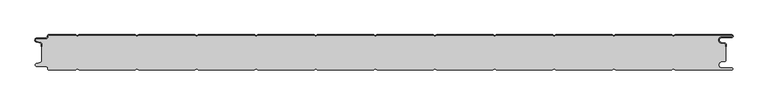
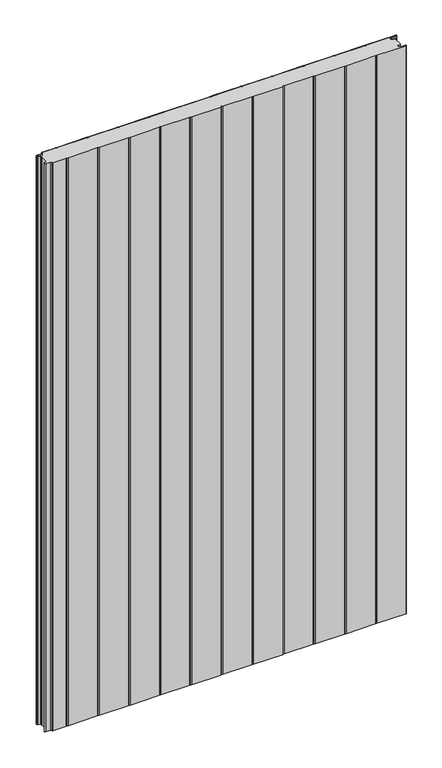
"""IFC4 building model written with IfcOpenShell, lengths in millimetres: plate geometry, PM1_Curtain-Panel_Perfil-Frigorífico : ACH_PM1_Panel-Acústico-Sectorización_60M."""

from ifc_helpers import new_model, si_unit, point, frame, frame_2d, origin, origin_with_axes, place, context, project, spatial, polyline, circle_curve, trimmed, segment, composite_curve, outline, extrude, source, transform, mapped, element, save
from ifc_brep_helpers import plane_surface, cylinder_surface, revolved_surface, advanced_brep


def plate_1f1996e2(model_context):
    return source(origin(), model_context, "Body", "SolidModel", [
        advanced_brep(
        [(-575.0, -15.878557, 1945.7507136), (-575.0, -20.0, 1945.7507136), (-574.2, -20.0, 1945.7507136), (-574.2, -15.878557, 1945.7507136), (-576.370137, -13.1503208, 1945.7507136), (-582.529863, -11.728236, 1945.7507136), (-581.9, -6.2, 1945.7507136), (-566.4, -6.2, 1945.7507136), (-563.6, -3.4, 1945.7507136), (-563.6, -2.0, 1945.7507136), (-562.4, -0.8, 1945.7507136), (-517.3143588, -0.8, 1945.7507136), (-514.4, -2.482606, 1945.7507136), (-511.4856412, -0.8, 1945.7507136), (-417.3143588, -0.8, 1945.7507136), (-414.4, -2.482606, 1945.7507136), (-411.4856412, -0.8, 1945.7507136), (-317.3143588, -0.8, 1945.7507136), (-314.4, -2.482606, 1945.7507136), (-311.4856412, -0.8, 1945.7507136), (-217.3143588, -0.8, 1945.7507136), (-214.4, -2.482606, 1945.7507136), (-211.4856412, -0.8, 1945.7507136), (-117.3143588, -0.8, 1945.7507136), (-114.4, -2.482606, 1945.7507136), (-111.4856412, -0.8, 1945.7507136), (-17.3143588, -0.8, 1945.7507136), (-14.4, -2.482606, 1945.7507136), (-11.4856412, -0.8, 1945.7507136), (82.6856412, -0.8, 1945.7507136), (85.6, -2.482606, 1945.7507136), (88.5143588, -0.8, 1945.7507136), (182.6856412, -0.8, 1945.7507136), (185.6, -2.482606, 1945.7507136), (188.5143588, -0.8, 1945.7507136), (282.6856412, -0.8, 1945.7507136), (285.6, -2.482606, 1945.7507136), (288.5143588, -0.8, 1945.7507136), (382.6856412, -0.8, 1945.7507136), (385.6, -2.482606, 1945.7507136), (388.5143588, -0.8, 1945.7507136), (482.6856412, -0.8, 1945.7507136), (485.6, -2.482606, 1945.7507136), (488.5143588, -0.8, 1945.7507136), (583.1, -0.8, 1945.7507136), (583.1, -4.2, 1945.7507136), (566.1, -4.2, 1945.7507136), (565.2664884, -13.7270771, 1945.7507136), (571.7125669, -14.8636953, 1945.7507136), (573.2, -16.6363492, 1945.7507136), (573.2, -20.0, 1945.7507136), (574.0, -20.0, 1945.7507136), (574.0, -16.6363492, 1945.7507136), (571.8514855, -14.0758491, 1945.7507136), (565.405407, -12.939231, 1945.7507136), (566.1, -5.0, 1945.7507136), (583.1, -5.0, 1945.7507136), (585.6, -2.5, 1945.7507136), (583.1, 0.0, 1945.7507136), (488.2999995, 0.0, 1945.7507136), (485.6, -1.5588455, 1945.7507136), (482.9000005, 0.0, 1945.7507136), (388.2999995, 0.0, 1945.7507136), (385.6, -1.5588455, 1945.7507136), (382.9000005, 0.0, 1945.7507136), (288.2999995, 0.0, 1945.7507136), (285.6, -1.5588455, 1945.7507136), (282.9000005, 0.0, 1945.7507136), (188.2999995, 0.0, 1945.7507136), (185.6, -1.5588455, 1945.7507136), (182.9000005, 0.0, 1945.7507136), (88.2999995, 0.0, 1945.7507136), (85.6, -1.5588455, 1945.7507136), (82.9000005, 0.0, 1945.7507136), (-11.7000005, 0.0, 1945.7507136), (-14.4, -1.5588455, 1945.7507136), (-17.0999995, 0.0, 1945.7507136), (-111.7000005, 0.0, 1945.7507136), (-114.4, -1.5588455, 1945.7507136), (-117.0999995, 0.0, 1945.7507136), (-211.7000005, 0.0, 1945.7507136), (-214.4, -1.5588455, 1945.7507136), (-217.0999995, 0.0, 1945.7507136), (-311.7000005, 0.0, 1945.7507136), (-314.4, -1.5588455, 1945.7507136), (-317.0999995, 0.0, 1945.7507136), (-411.7000005, 0.0, 1945.7507136), (-414.4, -1.5588455, 1945.7507136), (-417.0999995, 0.0, 1945.7507136), (-511.7000005, 0.0, 1945.7507136), (-514.4, -1.5588455, 1945.7507136), (-517.0999995, 0.0, 1945.7507136), (-562.4, 0.0, 1945.7507136), (-564.4, -2.0, 1945.7507136), (-564.4, -3.4, 1945.7507136), (-566.4, -5.4, 1945.7507136), (-581.9, -5.4, 1945.7507136), (-582.7098239, -12.5077322, 1945.7507136), (-576.5500979, -13.929817, 1945.7507136), (-575.0, -15.878557, 0.0), (-576.5500978, -13.9298169, 0.0), (-582.7098239, -12.507732, 0.0), (-581.9, -5.4, 0.0), (-566.4, -5.4, 0.0), (-564.4, -3.4, 0.0), (-564.4, -2.0, 0.0), (-562.4, 0.0, 0.0), (-517.0999995, 0.0, 0.0), (-514.4, -1.5588455, 0.0), (-511.7000005, 0.0, 0.0), (-417.0999995, 0.0, 0.0), (-414.4, -1.5588455, 0.0), (-411.7000005, 0.0, 0.0), (-317.0999995, 0.0, 0.0), (-314.4, -1.5588455, 0.0), (-311.7000005, 0.0, 0.0), (-217.0999995, 0.0, 0.0), (-214.4, -1.5588455, 0.0), (-211.7000005, 0.0, 0.0), (-117.0999995, 0.0, 0.0), (-114.4, -1.5588455, 0.0), (-111.7000005, 0.0, 0.0), (-17.0999995, 0.0, 0.0), (-14.4, -1.5588455, 0.0), (-11.7000005, 0.0, 0.0), (82.9000005, 0.0, 0.0), (85.6, -1.5588455, 0.0), (88.2999995, 0.0, 0.0), (182.9000005, 0.0, 0.0), (185.6, -1.5588455, 0.0), (188.2999995, 0.0, 0.0), (282.9000005, 0.0, 0.0), (285.6, -1.5588455, 0.0), (288.2999995, 0.0, 0.0), (382.9000005, 0.0, 0.0), (385.6, -1.5588455, 0.0), (388.2999995, 0.0, 0.0), (482.9000005, 0.0, 0.0), (485.6, -1.5588455, 0.0), (488.2999995, 0.0, 0.0), (583.1, 0.0, 0.0), (585.6, -2.5, 0.0), (583.1, -5.0, 0.0), (566.1, -5.0, 0.0), (565.405407, -12.939231, 0.0), (571.8514855, -14.0758491, 0.0), (574.0, -16.6363492, 0.0), (574.0, -20.0, 0.0), (573.2, -20.0, 0.0), (573.2, -16.6363492, 0.0), (571.7125669, -14.8636953, 0.0), (565.2664884, -13.7270772, 0.0), (566.1, -4.2, 0.0), (583.1, -4.2, 0.0), (583.1, -0.8, 0.0), (488.5143588, -0.8, 0.0), (485.6, -2.482606, 0.0), (482.6856412, -0.8, 0.0), (388.5143588, -0.8, 0.0), (385.6, -2.482606, 0.0), (382.6856412, -0.8, 0.0), (288.5143588, -0.8, 0.0), (285.6, -2.482606, 0.0), (282.6856412, -0.8, 0.0), (188.5143588, -0.8, 0.0), (185.6, -2.482606, 0.0), (182.6856412, -0.8, 0.0), (88.5143588, -0.8, 0.0), (85.6, -2.482606, 0.0), (82.6856412, -0.8, 0.0), (-11.4856412, -0.8, 0.0), (-14.4, -2.482606, 0.0), (-17.3143588, -0.8, 0.0), (-111.4856412, -0.8, 0.0), (-114.4, -2.482606, 0.0), (-117.3143588, -0.8, 0.0), (-211.4856412, -0.8, 0.0), (-214.4, -2.482606, 0.0), (-217.3143588, -0.8, 0.0), (-311.4856412, -0.8, 0.0), (-314.4, -2.482606, 0.0), (-317.3143588, -0.8, 0.0), (-411.4856412, -0.8, 0.0), (-414.4, -2.482606, 0.0), (-417.3143588, -0.8, 0.0), (-511.4856412, -0.8, 0.0), (-514.4, -2.482606, 0.0), (-517.3143588, -0.8, 0.0), (-562.4, -0.8, 0.0), (-563.6, -2.0, 0.0), (-563.6, -3.4, 0.0), (-566.4, -6.2, 0.0), (-581.9, -6.2, 0.0), (-582.529863, -11.7282362, 0.0), (-576.370137, -13.150321, 0.0), (-574.2, -15.878557, 0.0), (-574.2, -20.0, 0.0), (-575.0, -20.0, 0.0)],
        [
            (0, 1),
            (1, 2),
            (2, 3),
            (3, 4, circle_curve(frame((-577.0, -15.878557, 1945.7507136), z_axis=(0.0, 0.0, 1.0), x_axis=(1.0, 0.0, 0.0)), 2.8)),
            (4, 5),
            (5, 6, circle_curve(frame((-581.9, -9.0, 1945.7507136), z_axis=(0.0, 0.0, -1.0), x_axis=(1.0, 0.0, 0.0)), 2.8)),
            (6, 7),
            (7, 8, circle_curve(frame((-566.4, -3.4, 1945.7507136), z_axis=(0.0, 0.0, 1.0), x_axis=(1.0, 0.0, 0.0)), 2.8)),
            (8, 9),
            (9, 10, circle_curve(frame((-562.4, -2.0, 1945.7507136), z_axis=(0.0, 0.0, -1.0), x_axis=(1.0, 0.0, 0.0)), 1.2)),
            (10, 11),
            (11, 12),
            (12, 13),
            (13, 14),
            (14, 15),
            (15, 16),
            (16, 17),
            (17, 18),
            (18, 19),
            (19, 20),
            (20, 21),
            (21, 22),
            (22, 23),
            (23, 24),
            (24, 25),
            (25, 26),
            (26, 27),
            (27, 28),
            (28, 29),
            (29, 30),
            (30, 31),
            (31, 32),
            (32, 33),
            (33, 34),
            (34, 35),
            (35, 36),
            (36, 37),
            (37, 38),
            (38, 39),
            (39, 40),
            (40, 41),
            (41, 42),
            (42, 43),
            (43, 44),
            (44, 45, circle_curve(frame((583.1, -2.5, 1945.7507136), z_axis=(0.0, 0.0, -1.0), x_axis=(1.0, 0.0, 0.0)), 1.7)),
            (45, 46),
            (46, 47, circle_curve(frame((566.1, -9.0, 1945.7507136), z_axis=(0.0, 0.0, 1.0), x_axis=(1.0, 0.0, 0.0)), 4.8)),
            (47, 48),
            (48, 49, circle_curve(frame((571.4, -16.6363492, 1945.7507136), z_axis=(0.0, 0.0, -1.0), x_axis=(1.0, 0.0, 0.0)), 1.8)),
            (49, 50),
            (50, 51),
            (51, 52),
            (52, 53, circle_curve(frame((571.4, -16.6363492, 1945.7507136), z_axis=(0.0, 0.0, 1.0), x_axis=(1.0, 0.0, 0.0)), 2.6)),
            (53, 54),
            (54, 55, circle_curve(frame((566.1, -9.0, 1945.7507136), z_axis=(0.0, 0.0, -1.0), x_axis=(1.0, 0.0, 0.0)), 4.0)),
            (55, 56),
            (56, 57, circle_curve(frame((583.1, -2.5, 1945.7507136), z_axis=(0.0, 0.0, 1.0), x_axis=(1.0, 0.0, 0.0)), 2.5)),
            (57, 58, circle_curve(frame((583.1, -2.5, 1945.7507136), z_axis=(0.0, 0.0, 1.0), x_axis=(1.0, 0.0, 0.0)), 2.5)),
            (58, 59),
            (59, 60),
            (60, 61),
            (61, 62),
            (62, 63),
            (63, 64),
            (64, 65),
            (65, 66),
            (66, 67),
            (67, 68),
            (68, 69),
            (69, 70),
            (70, 71),
            (71, 72),
            (72, 73),
            (73, 74),
            (74, 75),
            (75, 76),
            (76, 77),
            (77, 78),
            (78, 79),
            (79, 80),
            (80, 81),
            (81, 82),
            (82, 83),
            (83, 84),
            (84, 85),
            (85, 86),
            (86, 87),
            (87, 88),
            (88, 89),
            (89, 90),
            (90, 91),
            (91, 92),
            (92, 93, circle_curve(frame((-562.4, -2.0, 1945.7507136), z_axis=(0.0, 0.0, 1.0), x_axis=(1.0, 0.0, 0.0)), 2.0)),
            (93, 94),
            (94, 95, circle_curve(frame((-566.4, -3.4, 1945.7507136), z_axis=(0.0, 0.0, -1.0), x_axis=(1.0, 0.0, 0.0)), 2.0)),
            (95, 96),
            (96, 97, circle_curve(frame((-581.9, -9.0, 1945.7507136), z_axis=(0.0, 0.0, 1.0), x_axis=(1.0, 0.0, 0.0)), 3.6)),
            (97, 98),
            (98, 0, circle_curve(frame((-577.0, -15.878557, 1945.7507136), z_axis=(0.0, 0.0, -1.0), x_axis=(1.0, 0.0, 0.0)), 2.0)),
            (99, 100, circle_curve(frame((-577.0, -15.878557, 0.0), z_axis=(0.0, 0.0, 1.0), x_axis=(1.0, 0.0, 0.0)), 2.0)),
            (100, 101),
            (101, 102, circle_curve(frame((-581.9, -9.0, 0.0), z_axis=(0.0, 0.0, -1.0), x_axis=(1.0, 0.0, 0.0)), 3.6)),
            (102, 103),
            (103, 104, circle_curve(frame((-566.4, -3.4, 0.0), z_axis=(0.0, 0.0, 1.0), x_axis=(1.0, 0.0, 0.0)), 2.0)),
            (104, 105),
            (105, 106, circle_curve(frame((-562.4, -2.0, 0.0), z_axis=(0.0, 0.0, -1.0), x_axis=(1.0, 0.0, 0.0)), 2.0)),
            (106, 107),
            (107, 108),
            (108, 109),
            (109, 110),
            (110, 111),
            (111, 112),
            (112, 113),
            (113, 114),
            (114, 115),
            (115, 116),
            (116, 117),
            (117, 118),
            (118, 119),
            (119, 120),
            (120, 121),
            (121, 122),
            (122, 123),
            (123, 124),
            (124, 125),
            (125, 126),
            (126, 127),
            (127, 128),
            (128, 129),
            (129, 130),
            (130, 131),
            (131, 132),
            (132, 133),
            (133, 134),
            (134, 135),
            (135, 136),
            (136, 137),
            (137, 138),
            (138, 139),
            (139, 140),
            (140, 141, circle_curve(frame((583.1, -2.5, 0.0), z_axis=(0.0, 0.0, -1.0), x_axis=(1.0, 0.0, 0.0)), 2.5)),
            (141, 142, circle_curve(frame((583.1, -2.5, 0.0), z_axis=(0.0, 0.0, -1.0), x_axis=(1.0, 0.0, 0.0)), 2.5)),
            (142, 143),
            (143, 144, circle_curve(frame((566.1, -9.0, 0.0), z_axis=(0.0, 0.0, 1.0), x_axis=(1.0, 0.0, 0.0)), 4.0)),
            (144, 145),
            (145, 146, circle_curve(frame((571.4, -16.6363492, 0.0), z_axis=(0.0, 0.0, -1.0), x_axis=(1.0, 0.0, 0.0)), 2.6)),
            (146, 147),
            (147, 148),
            (148, 149),
            (149, 150, circle_curve(frame((571.4, -16.6363492, 0.0), z_axis=(0.0, 0.0, 1.0), x_axis=(1.0, 0.0, 0.0)), 1.8)),
            (150, 151),
            (151, 152, circle_curve(frame((566.1, -9.0, 0.0), z_axis=(0.0, 0.0, -1.0), x_axis=(1.0, 0.0, 0.0)), 4.8)),
            (152, 153),
            (153, 154, circle_curve(frame((583.1, -2.5, 0.0), z_axis=(0.0, 0.0, 1.0), x_axis=(1.0, 0.0, 0.0)), 1.7)),
            (154, 155),
            (155, 156),
            (156, 157),
            (157, 158),
            (158, 159),
            (159, 160),
            (160, 161),
            (161, 162),
            (162, 163),
            (163, 164),
            (164, 165),
            (165, 166),
            (166, 167),
            (167, 168),
            (168, 169),
            (169, 170),
            (170, 171),
            (171, 172),
            (172, 173),
            (173, 174),
            (174, 175),
            (175, 176),
            (176, 177),
            (177, 178),
            (178, 179),
            (179, 180),
            (180, 181),
            (181, 182),
            (182, 183),
            (183, 184),
            (184, 185),
            (185, 186),
            (186, 187),
            (187, 188),
            (188, 189, circle_curve(frame((-562.4, -2.0, 0.0), z_axis=(0.0, 0.0, 1.0), x_axis=(1.0, 0.0, 0.0)), 1.2)),
            (189, 190),
            (190, 191, circle_curve(frame((-566.4, -3.4, 0.0), z_axis=(0.0, 0.0, -1.0), x_axis=(1.0, 0.0, 0.0)), 2.8)),
            (191, 192),
            (192, 193, circle_curve(frame((-581.9, -9.0, 0.0), z_axis=(0.0, 0.0, 1.0), x_axis=(1.0, 0.0, 0.0)), 2.8)),
            (193, 194),
            (194, 195, circle_curve(frame((-577.0, -15.878557, 0.0), z_axis=(0.0, 0.0, -1.0), x_axis=(1.0, 0.0, 0.0)), 2.8)),
            (195, 196),
            (196, 197),
            (197, 99),
            (0, 99),
            (197, 1),
            (196, 2),
            (195, 3),
            (194, 4),
            (193, 5),
            (192, 6),
            (191, 7),
            (190, 8),
            (189, 9),
            (188, 10),
            (187, 11),
            (186, 12),
            (185, 13),
            (184, 14),
            (183, 15),
            (182, 16),
            (181, 17),
            (180, 18),
            (179, 19),
            (178, 20),
            (177, 21),
            (176, 22),
            (175, 23),
            (174, 24),
            (173, 25),
            (172, 26),
            (171, 27),
            (170, 28),
            (169, 29),
            (168, 30),
            (167, 31),
            (166, 32),
            (165, 33),
            (164, 34),
            (163, 35),
            (162, 36),
            (161, 37),
            (160, 38),
            (159, 39),
            (158, 40),
            (157, 41),
            (156, 42),
            (155, 43),
            (154, 44),
            (153, 45),
            (152, 46),
            (151, 47),
            (150, 48),
            (149, 49),
            (148, 50),
            (147, 51),
            (146, 52),
            (145, 53),
            (144, 54),
            (143, 55),
            (142, 56),
            (140, 58),
            (139, 59),
            (138, 60),
            (137, 61),
            (136, 62),
            (135, 63),
            (134, 64),
            (133, 65),
            (132, 66),
            (131, 67),
            (130, 68),
            (129, 69),
            (128, 70),
            (127, 71),
            (126, 72),
            (125, 73),
            (124, 74),
            (123, 75),
            (122, 76),
            (121, 77),
            (120, 78),
            (119, 79),
            (118, 80),
            (117, 81),
            (116, 82),
            (115, 83),
            (114, 84),
            (113, 85),
            (112, 86),
            (111, 87),
            (110, 88),
            (109, 89),
            (108, 90),
            (107, 91),
            (106, 92),
            (105, 93),
            (104, 94),
            (103, 95),
            (102, 96),
            (101, 97),
            (100, 98),
        ],
        [
            plane_surface(frame((-575.0, 0.0, 1945.7507136), z_axis=(0.0, 0.0, 1.0), x_axis=(0.0, 1.0, 0.0))),
            plane_surface(frame((-575.0, 0.0, 0.0), z_axis=(0.0, 0.0, -1.0), x_axis=(0.0, 1.0, 0.0))),
            plane_surface(frame((-575.0, -15.878557, 1945.7507136), z_axis=(-1.0, 0.0, 0.0), x_axis=(0.0, 0.0, -1.0))),
            plane_surface(frame((-575.0, -20.0, 1945.7507136), z_axis=(0.0, -1.0, 0.0), x_axis=(0.0, 0.0, -1.0))),
            plane_surface(frame((-574.2, -20.0, 1945.7507136), z_axis=(1.0, 0.0, 0.0), x_axis=(0.0, 0.0, -1.0))),
            cylinder_surface(frame((-577.0, -15.878557, 1945.7507136), z_axis=(0.0, 0.0, 1.0), x_axis=(1.0, 0.0, 0.0)), 2.8),
            plane_surface(frame((-576.370137, -13.150321, 1945.7507136), z_axis=(0.22495108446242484, 0.9743700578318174, 0.0), x_axis=(0.0, 0.0, -1.0))),
            revolved_surface(polyline([(-579.1, -9.0, 0.0), (-579.1, -9.0, 1945.7507136)]), (-581.9, -9.0, 1945.7507136), (0.0, 0.0, -1.0)),
            plane_surface(frame((-581.9, -6.2, 1945.7507136), z_axis=(0.0, -1.0, 0.0), x_axis=(0.0, 0.0, -1.0))),
            cylinder_surface(frame((-566.4, -3.4, 1945.7507136), z_axis=(0.0, 0.0, 1.0), x_axis=(1.0, 0.0, 0.0)), 2.8),
            plane_surface(frame((-563.6, -3.4, 1945.7507136), z_axis=(1.0, 0.0, 0.0), x_axis=(0.0, 0.0, -1.0))),
            revolved_surface(polyline([(-561.1999999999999, -2.0, 0.0), (-561.1999999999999, -2.0, 1945.7507136)]), (-562.4, -2.0, 1945.7507136), (0.0, 0.0, -1.0)),
            plane_surface(frame((-562.4, -0.8, 1945.7507136), z_axis=(0.0, -1.0, 0.0), x_axis=(0.0, 0.0, -1.0))),
            plane_surface(frame((-517.3143588, -0.8, 1945.7507136), z_axis=(-0.5000000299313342, -0.8660253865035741, 0.0), x_axis=(0.0, 0.0, -1.0))),
            plane_surface(frame((-514.4, -2.482606, 1945.7507136), z_axis=(0.5000000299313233, -0.8660253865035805, 0.0), x_axis=(0.0, 0.0, -1.0))),
            plane_surface(frame((-511.4856412, -0.8, 1945.7507136), z_axis=(0.0, -1.0, 0.0), x_axis=(0.0, 0.0, -1.0))),
            plane_surface(frame((-417.3143588, -0.8, 1945.7507136), z_axis=(-0.5000000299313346, -0.8660253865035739, 0.0), x_axis=(0.0, 0.0, -1.0))),
            plane_surface(frame((-414.4, -2.482606, 1945.7507136), z_axis=(0.5000000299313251, -0.8660253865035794, 0.0), x_axis=(0.0, 0.0, -1.0))),
            plane_surface(frame((-411.4856412, -0.8, 1945.7507136), z_axis=(0.0, -1.0, 0.0), x_axis=(0.0, 0.0, -1.0))),
            plane_surface(frame((-317.3143588, -0.8, 1945.7507136), z_axis=(-0.5000000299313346, -0.866025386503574, 0.0), x_axis=(0.0, 0.0, -1.0))),
            plane_surface(frame((-314.4, -2.482606, 1945.7507136), z_axis=(0.5000000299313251, -0.8660253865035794, 0.0), x_axis=(0.0, 0.0, -1.0))),
            plane_surface(frame((-311.4856412, -0.8, 1945.7507136), z_axis=(0.0, -1.0, 0.0), x_axis=(0.0, 0.0, -1.0))),
            plane_surface(frame((-217.3143588, -0.8, 1945.7507136), z_axis=(-0.5000000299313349, -0.8660253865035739, 0.0), x_axis=(0.0, 0.0, -1.0))),
            plane_surface(frame((-214.4, -2.482606, 1945.7507136), z_axis=(0.5000000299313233, -0.8660253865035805, 0.0), x_axis=(0.0, 0.0, -1.0))),
            plane_surface(frame((-211.4856412, -0.8, 1945.7507136), z_axis=(0.0, -1.0, 0.0), x_axis=(0.0, 0.0, -1.0))),
            plane_surface(frame((-117.3143588, -0.8, 1945.7507136), z_axis=(-0.5000000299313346, -0.866025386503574, 0.0), x_axis=(0.0, 0.0, -1.0))),
            plane_surface(frame((-114.4, -2.482606, 1945.7507136), z_axis=(0.5000000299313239, -0.8660253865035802, 0.0), x_axis=(0.0, 0.0, -1.0))),
            plane_surface(frame((-111.4856412, -0.8, 1945.7507136), z_axis=(0.0, -1.0, 0.0), x_axis=(0.0, 0.0, -1.0))),
            plane_surface(frame((-17.3143588, -0.8, 1945.7507136), z_axis=(-0.5000000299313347, -0.8660253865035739, 0.0), x_axis=(0.0, 0.0, -1.0))),
            plane_surface(frame((-14.4, -2.482606, 1945.7507136), z_axis=(0.5000000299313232, -0.8660253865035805, 0.0), x_axis=(0.0, 0.0, -1.0))),
            plane_surface(frame((-11.4856412, -0.8, 1945.7507136), z_axis=(0.0, -1.0, 0.0), x_axis=(0.0, 0.0, -1.0))),
            plane_surface(frame((82.6856412, -0.8, 1945.7507136), z_axis=(-0.5000000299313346, -0.866025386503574, 0.0), x_axis=(0.0, 0.0, -1.0))),
            plane_surface(frame((85.6, -2.482606, 1945.7507136), z_axis=(0.5000000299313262, -0.8660253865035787, 0.0), x_axis=(0.0, 0.0, -1.0))),
            plane_surface(frame((88.5143588, -0.8, 1945.7507136), z_axis=(0.0, -1.0, 0.0), x_axis=(0.0, 0.0, -1.0))),
            plane_surface(frame((182.6856412, -0.8, 1945.7507136), z_axis=(-0.5000000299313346, -0.8660253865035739, 0.0), x_axis=(0.0, 0.0, -1.0))),
            plane_surface(frame((185.6, -2.482606, 1945.7507136), z_axis=(0.5000000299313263, -0.8660253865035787, 0.0), x_axis=(0.0, 0.0, -1.0))),
            plane_surface(frame((188.5143588, -0.8, 1945.7507136), z_axis=(0.0, -1.0, 0.0), x_axis=(0.0, 0.0, -1.0))),
            plane_surface(frame((282.6856412, -0.8, 1945.7507136), z_axis=(-0.5000000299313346, -0.8660253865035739, 0.0), x_axis=(0.0, 0.0, -1.0))),
            plane_surface(frame((285.6, -2.482606, 1945.7507136), z_axis=(0.5000000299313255, -0.8660253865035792, 0.0), x_axis=(0.0, 0.0, -1.0))),
            plane_surface(frame((288.5143588, -0.8, 1945.7507136), z_axis=(0.0, -1.0, 0.0), x_axis=(0.0, 0.0, -1.0))),
            plane_surface(frame((382.6856412, -0.8, 1945.7507136), z_axis=(-0.5000000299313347, -0.8660253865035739, 0.0), x_axis=(0.0, 0.0, -1.0))),
            plane_surface(frame((385.6, -2.482606, 1945.7507136), z_axis=(0.5000000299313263, -0.8660253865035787, 0.0), x_axis=(0.0, 0.0, -1.0))),
            plane_surface(frame((388.5143588, -0.8, 1945.7507136), z_axis=(0.0, -1.0, 0.0), x_axis=(0.0, 0.0, -1.0))),
            plane_surface(frame((482.6856412, -0.8, 1945.7507136), z_axis=(-0.5000000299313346, -0.866025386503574, 0.0), x_axis=(0.0, 0.0, -1.0))),
            plane_surface(frame((485.6, -2.482606, 1945.7507136), z_axis=(0.5000000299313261, -0.8660253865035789, 0.0), x_axis=(0.0, 0.0, -1.0))),
            plane_surface(frame((535.6, -0.8, 1945.7507136), z_axis=(0.0, -1.0, 0.0), x_axis=(0.0, 0.0, -1.0))),
            revolved_surface(polyline([(584.8000000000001, -2.5, 0.0), (584.8000000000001, -2.5, 1945.7507136)]), (583.1, -2.5, 1945.7507136), (0.0, 0.0, -1.0)),
            plane_surface(frame((583.1, -4.2, 1945.7507136), z_axis=(0.0, 1.0, 0.0), x_axis=(0.0, 0.0, -1.0))),
            cylinder_surface(frame((566.1, -9.0, 1945.7507136), z_axis=(0.0, 0.0, 1.0), x_axis=(1.0, 0.0, 0.0)), 4.8),
            plane_surface(frame((565.2664884, -13.7270772, 1945.7507136), z_axis=(-0.17364825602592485, -0.9848077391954, 0.0), x_axis=(0.0, 0.0, -1.0))),
            revolved_surface(polyline([(573.1999999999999, -16.6363492, 0.0), (573.1999999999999, -16.6363492, 1945.7507136)]), (571.4, -16.6363492, 1945.7507136), (0.0, 0.0, -1.0)),
            plane_surface(frame((573.2, -16.6363492, 1945.7507136), z_axis=(-1.0, 0.0, 0.0), x_axis=(0.0, 0.0, -1.0))),
            plane_surface(frame((573.2, -20.0, 1945.7507136), z_axis=(0.0, -1.0, 0.0), x_axis=(0.0, 0.0, -1.0))),
            plane_surface(frame((574.0, -20.0, 1945.7507136), z_axis=(1.0, 0.0, 0.0), x_axis=(0.0, 0.0, -1.0))),
            cylinder_surface(frame((571.4, -16.6363492, 1945.7507136), z_axis=(0.0, 0.0, 1.0), x_axis=(1.0, 0.0, 0.0)), 2.6),
            plane_surface(frame((571.8514855, -14.0758491, 1945.7507136), z_axis=(0.1736482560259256, 0.9848077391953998, 0.0), x_axis=(0.0, 0.0, -1.0))),
            revolved_surface(polyline([(570.1, -9.0, 0.0), (570.1, -9.0, 1945.7507136)]), (566.1, -9.0, 1945.7507136), (0.0, 0.0, -1.0)),
            plane_surface(frame((566.1, -5.0, 1945.7507136), z_axis=(0.0, -1.0, 0.0), x_axis=(0.0, 0.0, -1.0))),
            cylinder_surface(frame((583.1, -2.5, 1945.7507136), z_axis=(0.0, 0.0, 1.0), x_axis=(1.0, 0.0, 0.0)), 2.5),
            plane_surface(frame((535.6, 0.0, 1945.7507136), z_axis=(0.0, 1.0, 0.0), x_axis=(0.0, 0.0, -1.0))),
            plane_surface(frame((488.2999995, 0.0, 1945.7507136), z_axis=(-0.5000000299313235, 0.8660253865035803, 0.0), x_axis=(0.0, 0.0, -1.0))),
            plane_surface(frame((485.6, -1.5588455, 1945.7507136), z_axis=(0.5000000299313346, 0.8660253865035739, 0.0), x_axis=(0.0, 0.0, -1.0))),
            plane_surface(frame((482.9000005, 0.0, 1945.7507136), z_axis=(0.0, 1.0, 0.0), x_axis=(0.0, 0.0, -1.0))),
            plane_surface(frame((388.2999995, 0.0, 1945.7507136), z_axis=(-0.5000000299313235, 0.8660253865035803, 0.0), x_axis=(0.0, 0.0, -1.0))),
            plane_surface(frame((385.6, -1.5588455, 1945.7507136), z_axis=(0.5000000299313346, 0.8660253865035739, 0.0), x_axis=(0.0, 0.0, -1.0))),
            plane_surface(frame((382.9000005, 0.0, 1945.7507136), z_axis=(0.0, 1.0, 0.0), x_axis=(0.0, 0.0, -1.0))),
            plane_surface(frame((288.2999995, 0.0, 1945.7507136), z_axis=(-0.5000000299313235, 0.8660253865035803, 0.0), x_axis=(0.0, 0.0, -1.0))),
            plane_surface(frame((285.6, -1.5588455, 1945.7507136), z_axis=(0.5000000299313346, 0.8660253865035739, 0.0), x_axis=(0.0, 0.0, -1.0))),
            plane_surface(frame((282.9000005, 0.0, 1945.7507136), z_axis=(0.0, 1.0, 0.0), x_axis=(0.0, 0.0, -1.0))),
            plane_surface(frame((188.2999995, 0.0, 1945.7507136), z_axis=(-0.5000000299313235, 0.8660253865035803, 0.0), x_axis=(0.0, 0.0, -1.0))),
            plane_surface(frame((185.6, -1.5588455, 1945.7507136), z_axis=(0.5000000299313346, 0.8660253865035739, 0.0), x_axis=(0.0, 0.0, -1.0))),
            plane_surface(frame((182.9000005, 0.0, 1945.7507136), z_axis=(0.0, 1.0, 0.0), x_axis=(0.0, 0.0, -1.0))),
            plane_surface(frame((88.2999995, 0.0, 1945.7507136), z_axis=(-0.5000000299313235, 0.8660253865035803, 0.0), x_axis=(0.0, 0.0, -1.0))),
            plane_surface(frame((85.6, -1.5588455, 1945.7507136), z_axis=(0.5000000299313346, 0.8660253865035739, 0.0), x_axis=(0.0, 0.0, -1.0))),
            plane_surface(frame((82.9000005, 0.0, 1945.7507136), z_axis=(0.0, 1.0, 0.0), x_axis=(0.0, 0.0, -1.0))),
            plane_surface(frame((-11.7000005, 0.0, 1945.7507136), z_axis=(-0.5000000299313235, 0.8660253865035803, 0.0), x_axis=(0.0, 0.0, -1.0))),
            plane_surface(frame((-14.4, -1.5588455, 1945.7507136), z_axis=(0.5000000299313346, 0.8660253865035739, 0.0), x_axis=(0.0, 0.0, -1.0))),
            plane_surface(frame((-17.0999995, 0.0, 1945.7507136), z_axis=(0.0, 1.0, 0.0), x_axis=(0.0, 0.0, -1.0))),
            plane_surface(frame((-111.7000005, 0.0, 1945.7507136), z_axis=(-0.5000000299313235, 0.8660253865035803, 0.0), x_axis=(0.0, 0.0, -1.0))),
            plane_surface(frame((-114.4, -1.5588455, 1945.7507136), z_axis=(0.5000000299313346, 0.8660253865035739, 0.0), x_axis=(0.0, 0.0, -1.0))),
            plane_surface(frame((-117.0999995, 0.0, 1945.7507136), z_axis=(0.0, 1.0, 0.0), x_axis=(0.0, 0.0, -1.0))),
            plane_surface(frame((-211.7000005, 0.0, 1945.7507136), z_axis=(-0.5000000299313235, 0.8660253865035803, 0.0), x_axis=(0.0, 0.0, -1.0))),
            plane_surface(frame((-214.4, -1.5588455, 1945.7507136), z_axis=(0.5000000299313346, 0.8660253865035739, 0.0), x_axis=(0.0, 0.0, -1.0))),
            plane_surface(frame((-217.0999995, 0.0, 1945.7507136), z_axis=(0.0, 1.0, 0.0), x_axis=(0.0, 0.0, -1.0))),
            plane_surface(frame((-311.7000005, 0.0, 1945.7507136), z_axis=(-0.5000000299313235, 0.8660253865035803, 0.0), x_axis=(0.0, 0.0, -1.0))),
            plane_surface(frame((-314.4, -1.5588455, 1945.7507136), z_axis=(0.5000000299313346, 0.8660253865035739, 0.0), x_axis=(0.0, 0.0, -1.0))),
            plane_surface(frame((-317.0999995, 0.0, 1945.7507136), z_axis=(0.0, 1.0, 0.0), x_axis=(0.0, 0.0, -1.0))),
            plane_surface(frame((-411.7000005, 0.0, 1945.7507136), z_axis=(-0.5000000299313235, 0.8660253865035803, 0.0), x_axis=(0.0, 0.0, -1.0))),
            plane_surface(frame((-414.4, -1.5588455, 1945.7507136), z_axis=(0.5000000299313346, 0.8660253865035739, 0.0), x_axis=(0.0, 0.0, -1.0))),
            plane_surface(frame((-417.0999995, 0.0, 1945.7507136), z_axis=(0.0, 1.0, 0.0), x_axis=(0.0, 0.0, -1.0))),
            plane_surface(frame((-511.7000005, 0.0, 1945.7507136), z_axis=(-0.5000000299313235, 0.8660253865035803, 0.0), x_axis=(0.0, 0.0, -1.0))),
            plane_surface(frame((-514.4, -1.5588455, 1945.7507136), z_axis=(0.5000000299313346, 0.8660253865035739, 0.0), x_axis=(0.0, 0.0, -1.0))),
            plane_surface(frame((-517.0999995, 0.0, 1945.7507136), z_axis=(0.0, 1.0, 0.0), x_axis=(0.0, 0.0, -1.0))),
            cylinder_surface(frame((-562.4, -2.0, 1945.7507136), z_axis=(0.0, 0.0, 1.0), x_axis=(1.0, 0.0, 0.0)), 2.0),
            plane_surface(frame((-564.4, -2.0, 1945.7507136), z_axis=(-1.0, 0.0, 0.0), x_axis=(0.0, 0.0, -1.0))),
            revolved_surface(polyline([(-564.4, -3.4, 0.0), (-564.4, -3.4, 1945.7507136)]), (-566.4, -3.4, 1945.7507136), (0.0, 0.0, -1.0)),
            plane_surface(frame((-566.4, -5.4, 1945.7507136), z_axis=(0.0, 1.0, 0.0), x_axis=(0.0, 0.0, -1.0))),
            cylinder_surface(frame((-581.9, -9.0, 1945.7507136), z_axis=(0.0, 0.0, 1.0), x_axis=(1.0, 0.0, 0.0)), 3.6),
            plane_surface(frame((-582.7098239, -12.507732, 1945.7507136), z_axis=(-0.22495108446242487, -0.9743700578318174, 0.0), x_axis=(0.0, 0.0, -1.0))),
            revolved_surface(polyline([(-575.0, -15.878557, 0.0), (-575.0, -15.878557, 1945.7507136)]), (-577.0, -15.878557, 1945.7507136), (0.0, 0.0, -1.0)),
        ],
        [
            (0, [[1, 2, 3, 4, 5, 6, 7, 8, 9, 10, 11, 12, 13, 14, 15, 16, 17, 18, 19, 20, 21, 22, 23, 24, 25, 26, 27, 28, 29, 30, 31, 32, 33, 34, 35, 36, 37, 38, 39, 40, 41, 42, 43, 44, 45, 46, 47, 48, 49, 50, 51, 52, 53, 54, 55, 56, 57, 58, 59, 60, 61, 62, 63, 64, 65, 66, 67, 68, 69, 70, 71, 72, 73, 74, 75, 76, 77, 78, 79, 80, 81, 82, 83, 84, 85, 86, 87, 88, 89, 90, 91, 92, 93, 94, 95, 96, 97, 98, 99]]),
            (1, [[100, 101, 102, 103, 104, 105, 106, 107, 108, 109, 110, 111, 112, 113, 114, 115, 116, 117, 118, 119, 120, 121, 122, 123, 124, 125, 126, 127, 128, 129, 130, 131, 132, 133, 134, 135, 136, 137, 138, 139, 140, 141, 142, 143, 144, 145, 146, 147, 148, 149, 150, 151, 152, 153, 154, 155, 156, 157, 158, 159, 160, 161, 162, 163, 164, 165, 166, 167, 168, 169, 170, 171, 172, 173, 174, 175, 176, 177, 178, 179, 180, 181, 182, 183, 184, 185, 186, 187, 188, 189, 190, 191, 192, 193, 194, 195, 196, 197, 198]]),
            (2, [[-1, 199, -198, 200]]),
            (3, [[-2, -200, -197, 201]]),
            (4, [[-3, -201, -196, 202]]),
            (5, [[-4, -202, -195, 203]]),
            (6, [[-5, -203, -194, 204]]),
            (7, [[-6, -204, -193, 205]]),
            (8, [[-7, -205, -192, 206]]),
            (9, [[-8, -206, -191, 207]]),
            (10, [[-9, -207, -190, 208]]),
            (11, [[-10, -208, -189, 209]]),
            (12, [[-11, -209, -188, 210]]),
            (13, [[-12, -210, -187, 211]]),
            (14, [[-13, -211, -186, 212]]),
            (15, [[-14, -212, -185, 213]]),
            (16, [[-15, -213, -184, 214]]),
            (17, [[-16, -214, -183, 215]]),
            (18, [[-17, -215, -182, 216]]),
            (19, [[-18, -216, -181, 217]]),
            (20, [[-19, -217, -180, 218]]),
            (21, [[-20, -218, -179, 219]]),
            (22, [[-21, -219, -178, 220]]),
            (23, [[-22, -220, -177, 221]]),
            (24, [[-23, -221, -176, 222]]),
            (25, [[-24, -222, -175, 223]]),
            (26, [[-25, -223, -174, 224]]),
            (27, [[-26, -224, -173, 225]]),
            (28, [[-27, -225, -172, 226]]),
            (29, [[-28, -226, -171, 227]]),
            (30, [[-29, -227, -170, 228]]),
            (31, [[-30, -228, -169, 229]]),
            (32, [[-31, -229, -168, 230]]),
            (33, [[-32, -230, -167, 231]]),
            (34, [[-33, -231, -166, 232]]),
            (35, [[-34, -232, -165, 233]]),
            (36, [[-35, -233, -164, 234]]),
            (37, [[-36, -234, -163, 235]]),
            (38, [[-37, -235, -162, 236]]),
            (39, [[-38, -236, -161, 237]]),
            (40, [[-39, -237, -160, 238]]),
            (41, [[-40, -238, -159, 239]]),
            (42, [[-41, -239, -158, 240]]),
            (43, [[-42, -240, -157, 241]]),
            (44, [[-43, -241, -156, 242]]),
            (45, [[-44, -242, -155, 243]]),
            (46, [[-45, -243, -154, 244]]),
            (47, [[-46, -244, -153, 245]]),
            (48, [[-47, -245, -152, 246]]),
            (49, [[-48, -246, -151, 247]]),
            (50, [[-49, -247, -150, 248]]),
            (51, [[-50, -248, -149, 249]]),
            (52, [[-51, -249, -148, 250]]),
            (53, [[-52, -250, -147, 251]]),
            (54, [[-53, -251, -146, 252]]),
            (55, [[-54, -252, -145, 253]]),
            (56, [[-55, -253, -144, 254]]),
            (57, [[-56, -254, -143, 255]]),
            (58, [[-255, -142, -141, 256, -58, -57]]),
            (59, [[-59, -256, -140, 257]]),
            (60, [[-60, -257, -139, 258]]),
            (61, [[-61, -258, -138, 259]]),
            (62, [[-62, -259, -137, 260]]),
            (63, [[-63, -260, -136, 261]]),
            (64, [[-64, -261, -135, 262]]),
            (65, [[-65, -262, -134, 263]]),
            (66, [[-66, -263, -133, 264]]),
            (67, [[-67, -264, -132, 265]]),
            (68, [[-68, -265, -131, 266]]),
            (69, [[-69, -266, -130, 267]]),
            (70, [[-70, -267, -129, 268]]),
            (71, [[-71, -268, -128, 269]]),
            (72, [[-72, -269, -127, 270]]),
            (73, [[-73, -270, -126, 271]]),
            (74, [[-74, -271, -125, 272]]),
            (75, [[-75, -272, -124, 273]]),
            (76, [[-76, -273, -123, 274]]),
            (77, [[-77, -274, -122, 275]]),
            (78, [[-78, -275, -121, 276]]),
            (79, [[-79, -276, -120, 277]]),
            (80, [[-80, -277, -119, 278]]),
            (81, [[-81, -278, -118, 279]]),
            (82, [[-82, -279, -117, 280]]),
            (83, [[-83, -280, -116, 281]]),
            (84, [[-84, -281, -115, 282]]),
            (85, [[-85, -282, -114, 283]]),
            (86, [[-86, -283, -113, 284]]),
            (87, [[-87, -284, -112, 285]]),
            (88, [[-88, -285, -111, 286]]),
            (89, [[-89, -286, -110, 287]]),
            (90, [[-90, -287, -109, 288]]),
            (91, [[-91, -288, -108, 289]]),
            (92, [[-92, -289, -107, 290]]),
            (93, [[-93, -290, -106, 291]]),
            (94, [[-94, -291, -105, 292]]),
            (95, [[-95, -292, -104, 293]]),
            (96, [[-96, -293, -103, 294]]),
            (97, [[-97, -294, -102, 295]]),
            (98, [[-98, -295, -101, 296]]),
            (99, [[-99, -296, -100, -199]]),
        ],
    ),
        extrude(outline(composite_curve([segment(polyline([(-574.2, -44.1214426), (-574.2, -15.8785573)]), True, "CONTINUOUS"), segment(trimmed(circle_curve(frame_2d((-577.0, -15.8785573)), 2.8), [point((-574.2, -15.8785573))], [point((-576.370137, -13.1503212))], True, "CARTESIAN"), True, "CONTINUOUS"), segment(polyline([(-576.370137, -13.1503212), (-582.5298631, -11.7282362)]), True, "CONTINUOUS"), segment(trimmed(circle_curve(frame_2d((-581.9, -9.0)), 2.8), [point((-582.5298631, -11.7282362))], [point((-581.9, -6.2))], False, "CARTESIAN"), True, "CONTINUOUS"), segment(polyline([(-581.9, -6.2), (-566.4000001, -6.2)]), True, "CONTINUOUS"), segment(trimmed(circle_curve(frame_2d((-566.4000001, -3.4)), 2.8), [point((-566.4000001, -6.2))], [point((-563.6000001, -3.4))], True, "CARTESIAN"), True, "CONTINUOUS"), segment(polyline([(-563.6000001, -3.4), (-563.6000001, -2.0)]), True, "CONTINUOUS"), segment(trimmed(circle_curve(frame_2d((-562.4000001, -2.0)), 1.2), [point((-563.6000001, -2.0))], [point((-562.4000001, -0.8))], False, "CARTESIAN"), True, "CONTINUOUS"), segment(polyline([(-562.4000001, -0.8), (-517.3143589, -0.8), (-514.4000001, -2.482606), (-511.4856412, -0.8), (-417.3143589, -0.8), (-414.4000001, -2.482606), (-411.4856412, -0.8), (-317.3143589, -0.8), (-314.4000001, -2.482606), (-311.4856412, -0.8), (-217.3143589, -0.8), (-214.4000001, -2.482606), (-211.4856412, -0.8), (-117.3143589, -0.8), (-114.4000001, -2.482606), (-111.4856412, -0.8), (-17.3143589, -0.8), (-14.4000001, -2.482606), (-11.4856412, -0.8), (82.6856411, -0.8), (85.5999999, -2.482606), (88.5143588, -0.8), (182.6856411, -0.8), (185.5999999, -2.482606), (188.5143588, -0.8), (282.6856411, -0.8), (285.5999999, -2.482606), (288.5143588, -0.8), (382.6856411, -0.8), (385.5999999, -2.482606), (388.5143588, -0.8), (482.6856411, -0.8), (485.6, -2.482606), (488.5143588, -0.8), (583.1, -0.8)]), True, "CONTINUOUS"), segment(trimmed(circle_curve(frame_2d((583.1, -2.5)), 1.7), [point((583.1, -0.8))], [point((583.1, -4.2))], False, "CARTESIAN"), True, "CONTINUOUS"), segment(polyline([(583.1, -4.2), (566.1, -4.2)]), True, "CONTINUOUS"), segment(trimmed(circle_curve(frame_2d((566.1, -9.0)), 4.8), [point((566.1, -4.2))], [point((565.2664883, -13.7270771))], True, "CARTESIAN"), True, "CONTINUOUS"), segment(polyline([(565.2664883, -13.7270771), (571.7125668, -14.8636953)]), True, "CONTINUOUS"), segment(trimmed(circle_curve(frame_2d((571.4, -16.6363492)), 1.8), [point((571.7125668, -14.8636953))], [point((573.2, -16.6363492))], False, "CARTESIAN"), True, "CONTINUOUS"), segment(polyline([(573.2, -16.6363492), (573.2, -43.3636508)]), True, "CONTINUOUS"), segment(trimmed(circle_curve(frame_2d((571.4, -43.3636508)), 1.8), [point((573.2, -43.3636508))], [point((571.7125668, -45.1363047))], False, "CARTESIAN"), True, "CONTINUOUS"), segment(polyline([(571.7125668, -45.1363047), (565.2664883, -46.2729229)]), True, "CONTINUOUS"), segment(trimmed(circle_curve(frame_2d((566.1, -51.0)), 4.8), [point((565.2664883, -46.2729229))], [point((566.1, -55.8))], True, "CARTESIAN"), True, "CONTINUOUS"), segment(polyline([(566.1, -55.8), (583.1, -55.8)]), True, "CONTINUOUS"), segment(trimmed(circle_curve(frame_2d((583.1, -57.5)), 1.7), [point((583.1, -55.8))], [point((583.1, -59.2))], False, "CARTESIAN"), True, "CONTINUOUS"), segment(polyline([(583.1, -59.2), (488.5143588, -59.2), (485.6, -57.517394), (482.6856411, -59.2), (388.5143588, -59.2), (385.5999999, -57.517394), (382.6856411, -59.2), (288.5143588, -59.2), (285.5999999, -57.517394), (282.6856411, -59.2), (188.5143588, -59.2), (185.5999999, -57.517394), (182.6856411, -59.2), (88.5143588, -59.2), (85.5999999, -57.517394), (82.6856411, -59.2), (-11.4856412, -59.2), (-14.4000001, -57.517394), (-17.3143589, -59.2), (-111.4856412, -59.2), (-114.4000001, -57.517394), (-117.3143589, -59.2), (-211.4856412, -59.2), (-214.4000001, -57.517394), (-217.3143589, -59.2), (-311.4856412, -59.2), (-314.4000001, -57.517394), (-317.3143589, -59.2), (-411.4856412, -59.2), (-414.4000001, -57.517394), (-417.3143589, -59.2), (-511.4856412, -59.2), (-514.4000001, -57.517394), (-517.3143589, -59.2), (-562.4000001, -59.2)]), True, "CONTINUOUS"), segment(trimmed(circle_curve(frame_2d((-562.4000001, -58.0)), 1.2), [point((-562.4000001, -59.2))], [point((-563.6000001, -58.0))], False, "CARTESIAN"), True, "CONTINUOUS"), segment(polyline([(-563.6000001, -58.0), (-563.6000001, -56.6)]), True, "CONTINUOUS"), segment(trimmed(circle_curve(frame_2d((-566.4000001, -56.6)), 2.8), [point((-563.6000001, -56.6))], [point((-566.4000001, -53.8))], True, "CARTESIAN"), True, "CONTINUOUS"), segment(polyline([(-566.4000001, -53.8), (-581.9, -53.8)]), True, "CONTINUOUS"), segment(trimmed(circle_curve(frame_2d((-581.9, -51.0)), 2.8), [point((-581.9, -53.8))], [point((-582.5298631, -48.2717638))], False, "CARTESIAN"), True, "CONTINUOUS"), segment(polyline([(-582.5298631, -48.2717638), (-576.370137, -46.8496788)]), True, "CONTINUOUS"), segment(trimmed(circle_curve(frame_2d((-577.0, -44.1214426)), 2.8), [point((-576.370137, -46.8496788))], [point((-574.2, -44.1214426))], True, "CARTESIAN"), True, "CONTINUOUS")], self_intersect=False)), origin_with_axes(), (0.0, 0.0, 1.0), 1945.7507136),
    ])


if __name__ == "__main__":
    model = new_model("IFC4")
    model_context = context("Model", 3, world=origin())
    ifc_project = project(units=[si_unit("LENGTHUNIT", "METRE", prefix="MILLI")], contexts=[model_context])
    site = spatial("IfcSite", under=ifc_project)
    building = spatial("IfcBuilding", under=site)
    placement = place(None, origin())
    plate_shape = plate_1f1996e2(model_context)
    element("IfcPlate", 1, ObjectType="PM1_Curtain-Panel_Perfil-Frigorífico : ACH_PM1_Panel-Acústico-Sectorización_60M", at=placement, inside=building, context=model_context, shape_type="MappedRepresentation", body=[
        mapped(plate_shape, transform((0.0, 0.0, 0.0), x_axis=(1.0, 0.0, 0.0), y_axis=(0.0, 1.0, 0.0), z_axis=(0.0, 0.0, 1.0))),
    ])
    save(model, "model.ifc")
